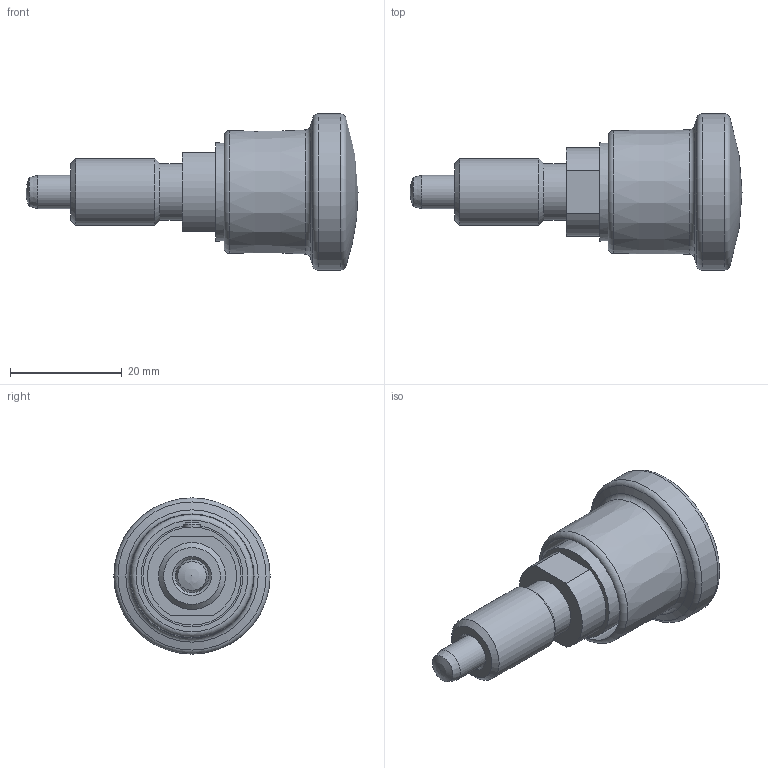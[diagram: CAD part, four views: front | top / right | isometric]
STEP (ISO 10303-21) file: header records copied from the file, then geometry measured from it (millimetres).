
FILE_DESCRIPTION( ( 'STEP AP203' ), '1' );
FILE_NAME( 'C:/Temp/Ganter_Step_05_03_2020/data/3_1/gn816_1/gn_816_1_a/Locking plunger GN 816.1-6-M12x1,5-A (activated).stp', '2020-03-12T08:56:06', ( 'License CC BY-ND 4.0' ), ( 'CADENAS' ), ' ', 'PARTsolutions', ' ' );
FILE_SCHEMA( ( 'CONFIG_CONTROL_DESIGN' ) );
Length unit declared in the file: millimetre
Products named in the file (3): Locking plunger GN 816.1-6-M12x1,5-A (activated); _GN 816.1-6-M12x1,5-A(1)-a2; _GN 816.1-6-M12x1,5-A-a1
Assembly tree (2 placements, depth 2):
  Locking plunger GN 816.1-6-M12x1,5-A (activated)
    _GN 816.1-6-M12x1,5-A(1)-a2
    _GN 816.1-6-M12x1,5-A-a1
Bounding box: 59.5 x 28 x 28 mm (x, y, z)
Volume: 11316.2 mm3; surface area: 9001.2 mm2
Topology: 2 solids, 2 shells, 51 faces, 102 edges, 62 vertices
Faces by surface type: cylinder 16, plane 14, cone 13, torus 6, sphere 2
Full cylindrical faces by diameter (mm): 2.9 x2, 3 x2, 6 x2, 8 x1, 8.1 x1, 10.2 x1, 11.1 x1, 12 x1, 18.2 x1, 20.017 x1, 28 x1
Entity records: 1486 total; most frequent: CARTESIAN_POINT 466, DIRECTION 206, ORIENTED_EDGE 118, EDGE_LOOP 100, AXIS2_PLACEMENT_3D 99, FACE_OUTER_BOUND 71, EDGE_CURVE 59, VERTEX_POINT 57
